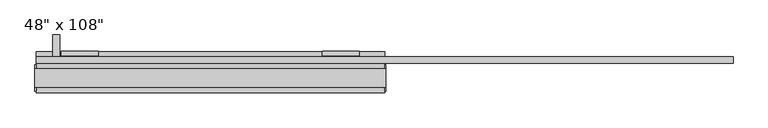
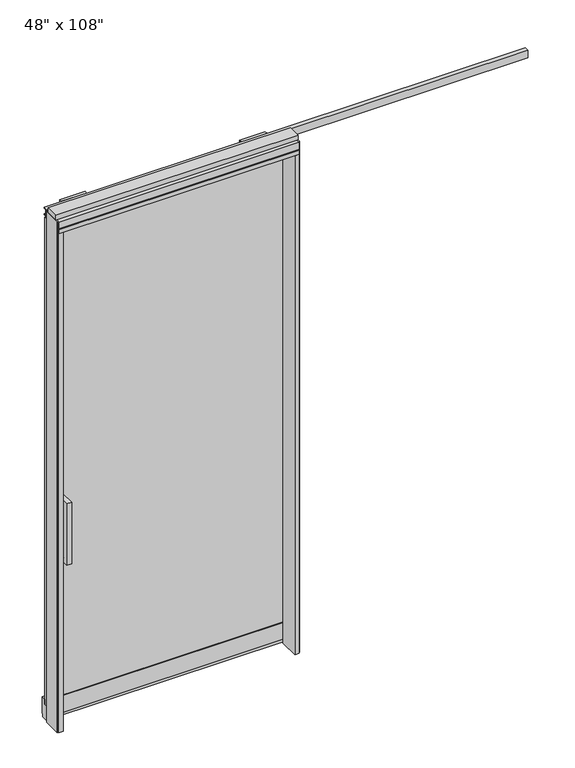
"""IFC4 building model written with IfcOpenShell, lengths in millimetres: furniture geometry."""

from ifc_helpers import new_model, si_unit, frame, origin, origin_with_axes, place, context, project, spatial, polyline, outline, extrude, source, transform, mapped, element, save


def furniture_7c117798(model_context):
    return source(origin(), model_context, "Body", "SweptSolid", [
        extrude(outline(polyline([(545.6264771, 74.3677216), (545.6264771, 64.2077216), (-665.6995229, 64.2077216), (-665.6995229, 74.3677216), (545.6264771, 74.3677216)])), frame((0.0, 0.0, 77.851), z_axis=(0.0, 0.0, 1.0), x_axis=(1.0, 0.0, 0.0)), (0.0, 0.0, 1.0), 2592.959),
        extrude(outline(polyline([(64.2077216, 852.297), (-16.0562784, 852.297), (-16.0562784, 1179.703), (64.2077216, 1179.703), (64.2077216, 1154.303), (9.3437216, 1154.303), (9.3437216, 877.697), (64.2077216, 877.697), (64.2077216, 852.297)])), frame((-608.4225229, 0.0, 0.0), z_axis=(1.0, 0.0, 0.0), x_axis=(0.0, 1.0, 0.0)), (0.0, 0.0, 1.0), 25.4),
        extrude(outline(polyline([(74.3677216, 852.297), (74.3677216, 877.697), (129.2317216, 877.697), (129.2317216, 1154.303), (74.3677216, 1154.303), (74.3677216, 1179.703), (154.6317216, 1179.703), (154.6317216, 852.297), (74.3677216, 852.297)])), frame((-608.4225229, 0.0, 0.0), z_axis=(1.0, 0.0, 0.0), x_axis=(0.0, 1.0, 0.0)), (0.0, 0.0, 1.0), 25.4),
        extrude(outline(polyline([(63.9537216, 2628.9), (60.3977216, 2628.9), (60.3977216, 2676.779), (83.0037216, 2676.779), (83.0037216, 2717.8), (98.4977216, 2717.8), (98.4977216, 2628.9), (76.2727216, 2628.9), (76.2727216, 2670.81), (63.9537216, 2670.81), (63.9537216, 2628.9)])), frame((-577.4345229, 0.0, 0.0), z_axis=(1.0, 0.0, 0.0), x_axis=(0.0, 1.0, 0.0)), (0.0, 0.0, 1.0), 128.016),
        extrude(outline(polyline([(63.9537216, 2628.9), (60.3977216, 2628.9), (60.3977216, 2676.779), (83.0037216, 2676.779), (83.0037216, 2717.8), (98.4977216, 2717.8), (98.4977216, 2628.9), (76.2727216, 2628.9), (76.2727216, 2670.81), (63.9537216, 2670.81), (63.9537216, 2628.9)])), frame((329.3454771, 0.0, 0.0), z_axis=(1.0, 0.0, 0.0), x_axis=(0.0, 1.0, 0.0)), (0.0, 0.0, 1.0), 128.016),
        extrude(outline(polyline([(77.9237216, 2681.478), (56.2067216, 2681.478), (56.2067216, 2721.102), (77.9237216, 2721.102), (77.9237216, 2715.768), (65.2237216, 2715.768), (65.2237216, 2686.812), (77.9237216, 2686.812), (77.9237216, 2681.478)])), frame((-665.6995229, 0.0, 0.0), z_axis=(1.0, 0.0, 0.0), x_axis=(0.0, 1.0, 0.0)), (0.0, 0.0, 1.0), 2422.652),
        extrude(outline(polyline([(74.8757216, 77.851), (74.8757216, 105.664), (97.1007216, 105.664), (97.1007216, 16.764), (93.2907216, 16.764), (93.2907216, 0.0), (64.2077216, 0.0), (64.2077216, 16.764), (60.3977216, 16.764), (60.3977216, 105.664), (63.9537216, 105.664), (63.9537216, 77.851), (74.8757216, 77.851)])), frame((-665.6995229, 0.0, 0.0), z_axis=(1.0, 0.0, 0.0), x_axis=(0.0, 1.0, 0.0)), (0.0, 0.0, 1.0), 1211.326),
        extrude(outline(polyline([(-665.6995229, 55.3177216), (545.6264771, 55.3177216), (545.6264771, -46.2822784), (-665.6995229, -46.2822784), (-665.6995229, 55.3177216)])), frame((0.0, 0.0, 2654.3), z_axis=(0.0, 0.0, 1.0), x_axis=(1.0, 0.0, 0.0)), (0.0, 0.0, 1.0), 22.225),
        extrude(outline(polyline([(549.5634771, 50.3647216), (549.5634771, -41.3292784), (545.6264771, -41.3292784), (545.6264771, 50.3647216), (549.5634771, 50.3647216)])), origin_with_axes(), (0.0, 0.0, 1.0), 2717.8),
        extrude(outline(polyline([(-669.6365229, 50.3647216), (-665.6995229, 50.3647216), (-665.6995229, -41.3292784), (-669.6365229, -41.3292784), (-669.6365229, 50.3647216)])), origin_with_axes(), (0.0, 0.0, 1.0), 2717.8),
        extrude(outline(polyline([(523.4014771, 55.3177216), (545.6264771, 55.3177216), (545.6264771, -46.2822784), (523.4014771, -46.2822784), (523.4014771, 55.3177216)])), origin_with_axes(), (0.0, 0.0, 1.0), 2654.3),
        extrude(outline(polyline([(-643.4745229, 55.3177216), (-643.4745229, -46.2822784), (-665.6995229, -46.2822784), (-665.6995229, 55.3177216), (-643.4745229, 55.3177216)])), origin_with_axes(), (0.0, 0.0, 1.0), 2654.3),
        extrude(outline(polyline([(55.3177216, 2681.478), (50.3647216, 2681.478), (50.3647216, 2676.525), (-41.3292784, 2676.525), (-41.3292784, 2681.478), (-46.2822784, 2681.478), (-46.2822784, 2717.8), (55.3177216, 2717.8), (55.3177216, 2681.478)])), frame((-665.6995229, 0.0, 0.0), z_axis=(1.0, 0.0, 0.0), x_axis=(0.0, 1.0, 0.0)), (0.0, 0.0, 1.0), 1211.326),
        extrude(outline(polyline([(-669.6365229, 37.0297216), (549.5634771, 37.0297216), (549.5634771, -27.9942784), (-669.6365229, -27.9942784), (-669.6365229, 37.0297216)])), frame((0.0, 0.0, 2717.8), z_axis=(0.0, 0.0, 1.0), x_axis=(1.0, 0.0, 0.0)), (0.0, 0.0, 1.0), 25.4),
    ])


if __name__ == "__main__":
    model = new_model("IFC4")
    model_context = context("Model", 3, world=origin())
    ifc_project = project(units=[si_unit("LENGTHUNIT", "METRE", prefix="MILLI")], contexts=[model_context])
    site = spatial("IfcSite", under=ifc_project)
    building = spatial("IfcBuilding", under=site)
    placement = place(None, origin())
    furniture_shape = furniture_7c117798(model_context)
    element("IfcFurniture", 1, ObjectType="Haworth_Enclose-Door-Single_Sliding : 48\" x 108\"", at=placement, inside=building, context=model_context, shape_type="MappedRepresentation", body=[
        mapped(furniture_shape, transform((0.0, 0.0, 0.0), x_axis=(1.0, 0.0, 0.0), y_axis=(0.0, 1.0, 0.0), z_axis=(0.0, 0.0, 1.0))),
    ])
    save(model, "model.ifc")
